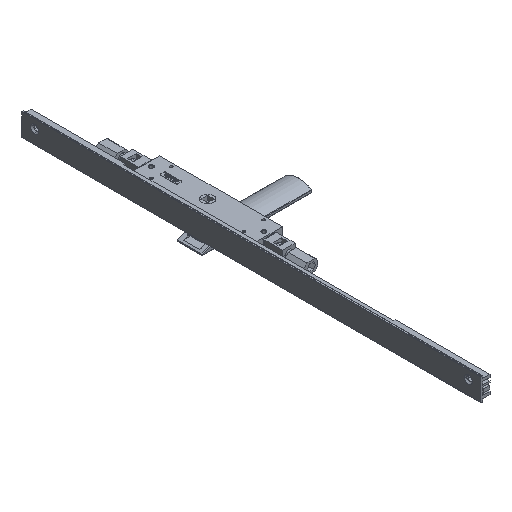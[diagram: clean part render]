
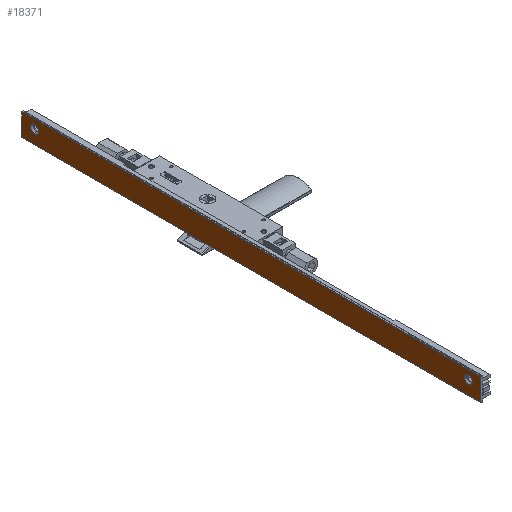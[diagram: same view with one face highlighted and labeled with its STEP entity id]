
A CAD part, isometric view. The second image highlights one B-rep face of the part: STEP entity #18371.
In plain terms, the highlighted planar face has unit normal (-1, 0, 0) as drawn and (0, 1, 0) by its records, which use the part's own axes.
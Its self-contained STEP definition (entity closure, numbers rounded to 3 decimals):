
#101 = CARTESIAN_POINT ( 'NONE',  ( 22., 12.4, 544. ) ) ;
#1219 = ORIENTED_EDGE ( 'NONE', *, *, #10957, .F. ) ;
#1385 = DIRECTION ( 'NONE',  ( 0., 0., 1. ) ) ;
#1860 = EDGE_LOOP ( 'NONE', ( #14304, #4442, #7011, #10603 ) ) ;
#1904 = CARTESIAN_POINT ( 'NONE',  ( -4.4, 12.4, 544. ) ) ;
#2192 = EDGE_CURVE ( 'NONE', #12467, #6028, #18492, .T. ) ;
#2196 = CARTESIAN_POINT ( 'NONE',  ( 20.8, 12.4, 544. ) ) ;
#3183 = AXIS2_PLACEMENT_3D ( 'NONE', #8740, #14294, #5782 ) ;
#3758 = FACE_BOUND ( 'NONE', #15112, .T. ) ;
#3791 = AXIS2_PLACEMENT_3D ( 'NONE', #2196, #18759, #8492 ) ;
#3827 = EDGE_CURVE ( 'NONE', #14053, #8429, #5112, .T. ) ;
#3858 = FACE_BOUND ( 'NONE', #9183, .T. ) ;
#3970 = ORIENTED_EDGE ( 'NONE', *, *, #13183, .F. ) ;
#4442 = ORIENTED_EDGE ( 'NONE', *, *, #5081, .F. ) ;
#4849 = CARTESIAN_POINT ( 'NONE',  ( 20.8, 12.4, 544. ) ) ;
#4915 = VERTEX_POINT ( 'NONE', #1904 ) ;
#4998 = CARTESIAN_POINT ( 'NONE',  ( 22., 12.4, 544. ) ) ;
#5081 = EDGE_CURVE ( 'NONE', #6028, #4915, #6508, .T. ) ;
#5112 = CIRCLE ( 'NONE', #17684, 4.889 ) ;
#5288 = DIRECTION ( 'NONE',  ( -1., 0., 0. ) ) ;
#5494 = VERTEX_POINT ( 'NONE', #9899 ) ;
#5782 = DIRECTION ( 'NONE',  ( -1., 0., 0. ) ) ;
#6028 = VERTEX_POINT ( 'NONE', #101 ) ;
#6262 = DIRECTION ( 'NONE',  ( 0., 0., -1. ) ) ;
#6433 = CARTESIAN_POINT ( 'NONE',  ( 20.8, 12.4, 0. ) ) ;
#6508 = LINE ( 'NONE', #4849, #17392 ) ;
#6592 = VECTOR ( 'NONE', #11002, 1000. ) ;
#7011 = ORIENTED_EDGE ( 'NONE', *, *, #2192, .F. ) ;
#7027 = FACE_OUTER_BOUND ( 'NONE', #1860, .T. ) ;
#7100 = VERTEX_POINT ( 'NONE', #8598 ) ;
#7134 = CARTESIAN_POINT ( 'NONE',  ( 11.8, 12.4, 15. ) ) ;
#7229 = DIRECTION ( 'NONE',  ( 0., 1., 0. ) ) ;
#7772 = DIRECTION ( 'NONE',  ( -1., 0., 0. ) ) ;
#8297 = PLANE ( 'NONE',  #3791 ) ;
#8429 = VERTEX_POINT ( 'NONE', #11349 ) ;
#8492 = DIRECTION ( 'NONE',  ( 1., 0., 0. ) ) ;
#8598 = CARTESIAN_POINT ( 'NONE',  ( 6.911, 12.4, 15. ) ) ;
#8682 = DIRECTION ( 'NONE',  ( 0., 1., 0. ) ) ;
#8740 = CARTESIAN_POINT ( 'NONE',  ( 11.8, 12.4, 15. ) ) ;
#8781 = VECTOR ( 'NONE', #6262, 1000. ) ;
#8796 = EDGE_CURVE ( 'NONE', #4915, #5494, #13715, .T. ) ;
#9116 = CARTESIAN_POINT ( 'NONE',  ( -4.4, 12.4, 544. ) ) ;
#9160 = VERTEX_POINT ( 'NONE', #16401 ) ;
#9183 = EDGE_LOOP ( 'NONE', ( #3970, #19368 ) ) ;
#9899 = CARTESIAN_POINT ( 'NONE',  ( -4.4, 12.4, 0. ) ) ;
#9941 = CIRCLE ( 'NONE', #14979, 4.889 ) ;
#10603 = ORIENTED_EDGE ( 'NONE', *, *, #18257, .F. ) ;
#10957 = EDGE_CURVE ( 'NONE', #9160, #7100, #16106, .T. ) ;
#10973 = LINE ( 'NONE', #6433, #13520 ) ;
#11002 = DIRECTION ( 'NONE',  ( 0., 0., 1. ) ) ;
#11349 = CARTESIAN_POINT ( 'NONE',  ( 11.8, 12.4, 533.889 ) ) ;
#12262 = CARTESIAN_POINT ( 'NONE',  ( 22., 12.4, 0. ) ) ;
#12467 = VERTEX_POINT ( 'NONE', #12262 ) ;
#12631 = DIRECTION ( 'NONE',  ( 1., 0., 0. ) ) ;
#13121 = DIRECTION ( 'NONE',  ( 0., 0., 1. ) ) ;
#13183 = EDGE_CURVE ( 'NONE', #8429, #14053, #9941, .T. ) ;
#13504 = AXIS2_PLACEMENT_3D ( 'NONE', #7134, #7229, #5288 ) ;
#13520 = VECTOR ( 'NONE', #12631, 1000. ) ;
#13715 = LINE ( 'NONE', #9116, #8781 ) ;
#14053 = VERTEX_POINT ( 'NONE', #19081 ) ;
#14294 = DIRECTION ( 'NONE',  ( 0., 1., 0. ) ) ;
#14304 = ORIENTED_EDGE ( 'NONE', *, *, #8796, .F. ) ;
#14474 = CIRCLE ( 'NONE', #13504, 4.889 ) ;
#14979 = AXIS2_PLACEMENT_3D ( 'NONE', #19043, #8682, #1385 ) ;
#15112 = EDGE_LOOP ( 'NONE', ( #19281, #1219 ) ) ;
#15809 = CARTESIAN_POINT ( 'NONE',  ( 11.8, 12.4, 529. ) ) ;
#16006 = DIRECTION ( 'NONE',  ( 0., 1., 0. ) ) ;
#16106 = CIRCLE ( 'NONE', #3183, 4.889 ) ;
#16401 = CARTESIAN_POINT ( 'NONE',  ( 16.689, 12.4, 15. ) ) ;
#17392 = VECTOR ( 'NONE', #7772, 1000. ) ;
#17684 = AXIS2_PLACEMENT_3D ( 'NONE', #15809, #16006, #13121 ) ;
#17986 = EDGE_CURVE ( 'NONE', #7100, #9160, #14474, .T. ) ;
#18257 = EDGE_CURVE ( 'NONE', #5494, #12467, #10973, .T. ) ;
#18371 = ADVANCED_FACE ( 'NONE', ( #7027, #3858, #3758 ), #8297, .F. ) ;
#18492 = LINE ( 'NONE', #4998, #6592 ) ;
#18759 = DIRECTION ( 'NONE',  ( 0., -1., 0. ) ) ;
#19043 = CARTESIAN_POINT ( 'NONE',  ( 11.8, 12.4, 529. ) ) ;
#19081 = CARTESIAN_POINT ( 'NONE',  ( 11.8, 12.4, 524.111 ) ) ;
#19281 = ORIENTED_EDGE ( 'NONE', *, *, #17986, .F. ) ;
#19368 = ORIENTED_EDGE ( 'NONE', *, *, #3827, .F. ) ;
